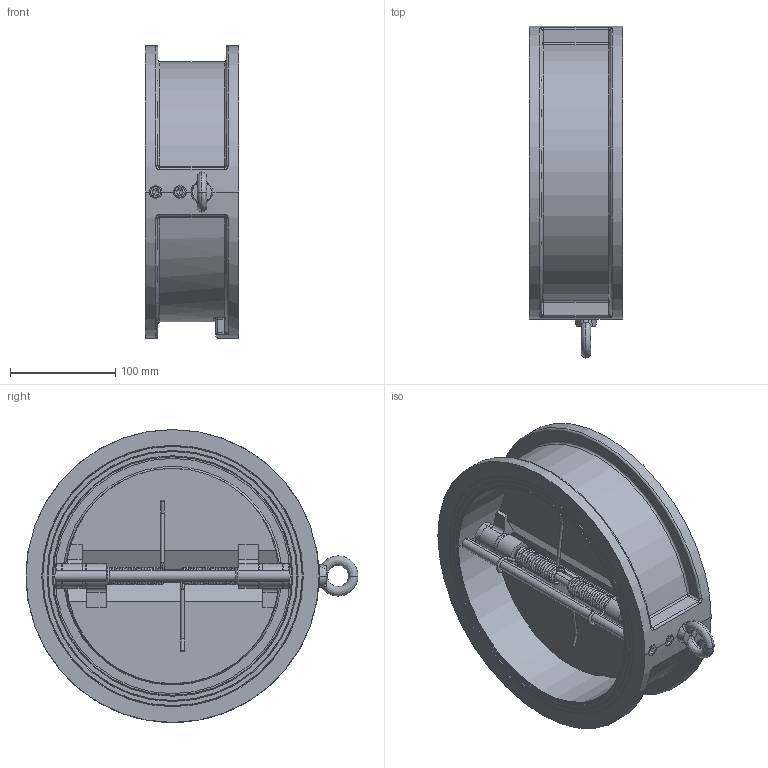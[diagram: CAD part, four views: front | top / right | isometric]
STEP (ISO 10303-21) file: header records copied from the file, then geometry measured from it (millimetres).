
FILE_DESCRIPTION(('Open CASCADE Model'),'2;1');
FILE_NAME('Open CASCADE Shape Model','2022-03-10T07:57:31',('Author'),( 'Open CASCADE'),'Open CASCADE STEP processor 7.3','Open CASCADE 7.3' ,'Unknown');
FILE_SCHEMA(('AUTOMOTIVE_DESIGN { 1 0 10303 214 1 1 1 1 }'));
Length unit declared in the file: millimetre
Products named in the file (22): Open CASCADE STEP translator 7.3 1; Open CASCADE STEP translator 7.3 1.1; Open CASCADE STEP translator 7.3 1.2; Open CASCADE STEP translator 7.3 1.3; Open CASCADE STEP translator 7.3 1.4; Open CASCADE STEP translator 7.3 1.5; Open CASCADE STEP translator 7.3 1.6; Open CASCADE STEP translator 7.3 1.7; Open CASCADE STEP translator 7.3 1.8; Open CASCADE STEP translator 7.3 1.9; Open CASCADE STEP translator 7.3 1.10; Open CASCADE STEP translator 7.3 1.11; Open CASCADE STEP translator 7.3 1.12; Open CASCADE STEP translator 7.3 1.13; Open CASCADE STEP translator 7.3 1.14; Open CASCADE STEP translator 7.3 1.15; Open CASCADE STEP translator 7.3 1.16; Open CASCADE STEP translator 7.3 1.17; Open CASCADE STEP translator 7.3 1.18; Open CASCADE STEP translator 7.3 1.19; Open CASCADE STEP translator 7.3 1.20; Open CASCADE STEP translator 7.3 1.21
Assembly tree (21 placements, depth 2):
  Open CASCADE STEP translator 7.3 1
    Open CASCADE STEP translator 7.3 1.1
    Open CASCADE STEP translator 7.3 1.2
    Open CASCADE STEP translator 7.3 1.3
    Open CASCADE STEP translator 7.3 1.4
    Open CASCADE STEP translator 7.3 1.5
    Open CASCADE STEP translator 7.3 1.6
    Open CASCADE STEP translator 7.3 1.7
    Open CASCADE STEP translator 7.3 1.8
    Open CASCADE STEP translator 7.3 1.9
    Open CASCADE STEP translator 7.3 1.10
    Open CASCADE STEP translator 7.3 1.11
    Open CASCADE STEP translator 7.3 1.12
    Open CASCADE STEP translator 7.3 1.13
    Open CASCADE STEP translator 7.3 1.14
    Open CASCADE STEP translator 7.3 1.15
    Open CASCADE STEP translator 7.3 1.16
    Open CASCADE STEP translator 7.3 1.17
    Open CASCADE STEP translator 7.3 1.18
    Open CASCADE STEP translator 7.3 1.19
    Open CASCADE STEP translator 7.3 1.20
    Open CASCADE STEP translator 7.3 1.21
Bounding box: 89 x 316.1 x 279 mm (x, y, z)
Volume: 2095212.7 mm3; surface area: 415778.2 mm2
Topology: 21 solids, 21 shells, 544 faces, 1270 edges, 748 vertices
Faces by surface type: cylinder 169, plane 159, cone 115, torus 51, bspline 38, sphere 12
Entity records: 68463 total; most frequent: CARTESIAN_POINT 43305, DIRECTION 4661, ORIENTED_EDGE 2496, PCURVE 2496, DEFINITIONAL_REPRESENTATION 2496, LINE 2254, VECTOR 2254, EDGE_CURVE 1248
